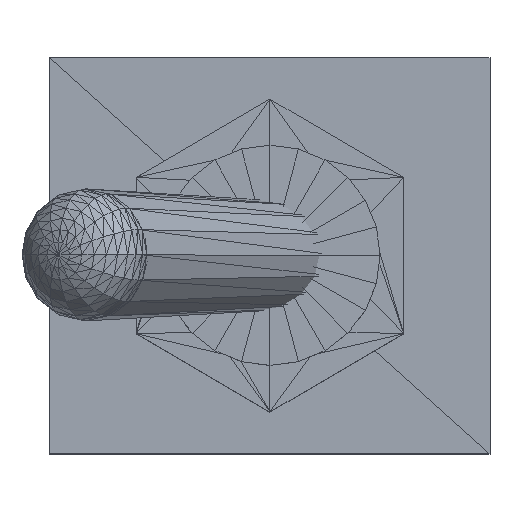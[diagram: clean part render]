
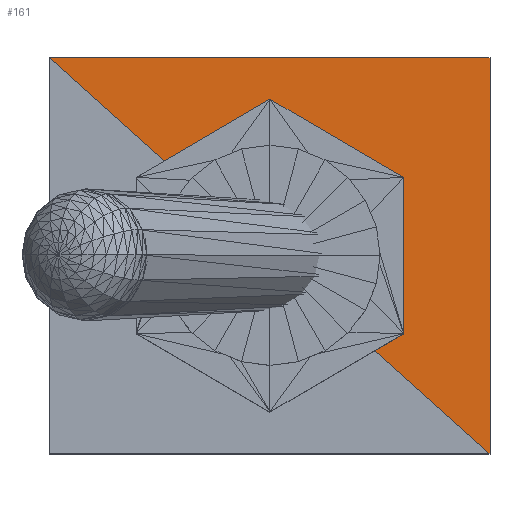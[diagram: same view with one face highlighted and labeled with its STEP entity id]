
A CAD part, top view. The second image highlights one B-rep face of the part: STEP entity #161.
In plain terms, the highlighted planar face has unit normal (0, 0, 1).
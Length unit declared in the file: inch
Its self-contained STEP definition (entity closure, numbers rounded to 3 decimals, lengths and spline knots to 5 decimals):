
#68=CARTESIAN_POINT('',(-0.25,0.22492,1.11005));
#69=VERTEX_POINT('',#68);
#76=CARTESIAN_POINT('',(0.25,-0.22508,1.10995));
#77=VERTEX_POINT('',#76);
#84=CARTESIAN_POINT('',(0.25,-0.22508,1.10995));
#85=DIRECTION('',(-0.743,0.669,0.));
#86=VECTOR('',#85,0.67268);
#87=LINE('',#84,#86);
#88=EDGE_CURVE('',#77,#69,#87,.T.);
#139=CARTESIAN_POINT('',(-0.25,0.22492,1.11005));
#140=DIRECTION('',(0.,0.,1.));
#141=DIRECTION('',(1.,0.,0.));
#142=AXIS2_PLACEMENT_3D('',#139,#140,#141);
#143=PLANE('',#142);
#144=ORIENTED_EDGE('',*,*,#88,.F.);
#145=CARTESIAN_POINT('',(0.25,0.22492,1.11005));
#146=VERTEX_POINT('',#145);
#147=CARTESIAN_POINT('',(0.25,-0.22508,1.10995));
#148=DIRECTION('',(0.,1.,0.));
#149=VECTOR('',#148,0.45);
#150=LINE('',#147,#149);
#151=EDGE_CURVE('',#77,#146,#150,.T.);
#152=ORIENTED_EDGE('',*,*,#151,.T.);
#153=CARTESIAN_POINT('',(-0.25,0.22492,1.11005));
#154=DIRECTION('',(1.,0.,-0.));
#155=VECTOR('',#154,0.5);
#156=LINE('',#153,#155);
#157=EDGE_CURVE('',#69,#146,#156,.T.);
#158=ORIENTED_EDGE('',*,*,#157,.F.);
#159=EDGE_LOOP('',(#144,#152,#158));
#160=FACE_BOUND('',#159,.T.);
#161=ADVANCED_FACE('',(#160),#143,.T.);
